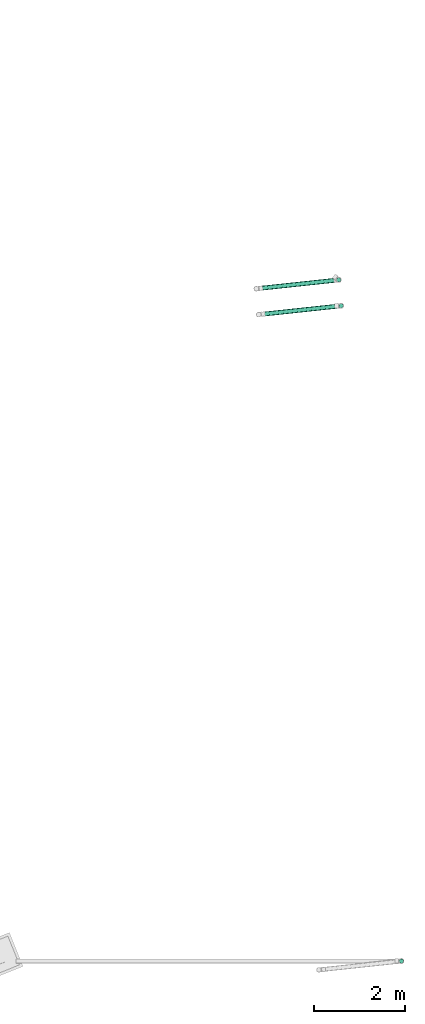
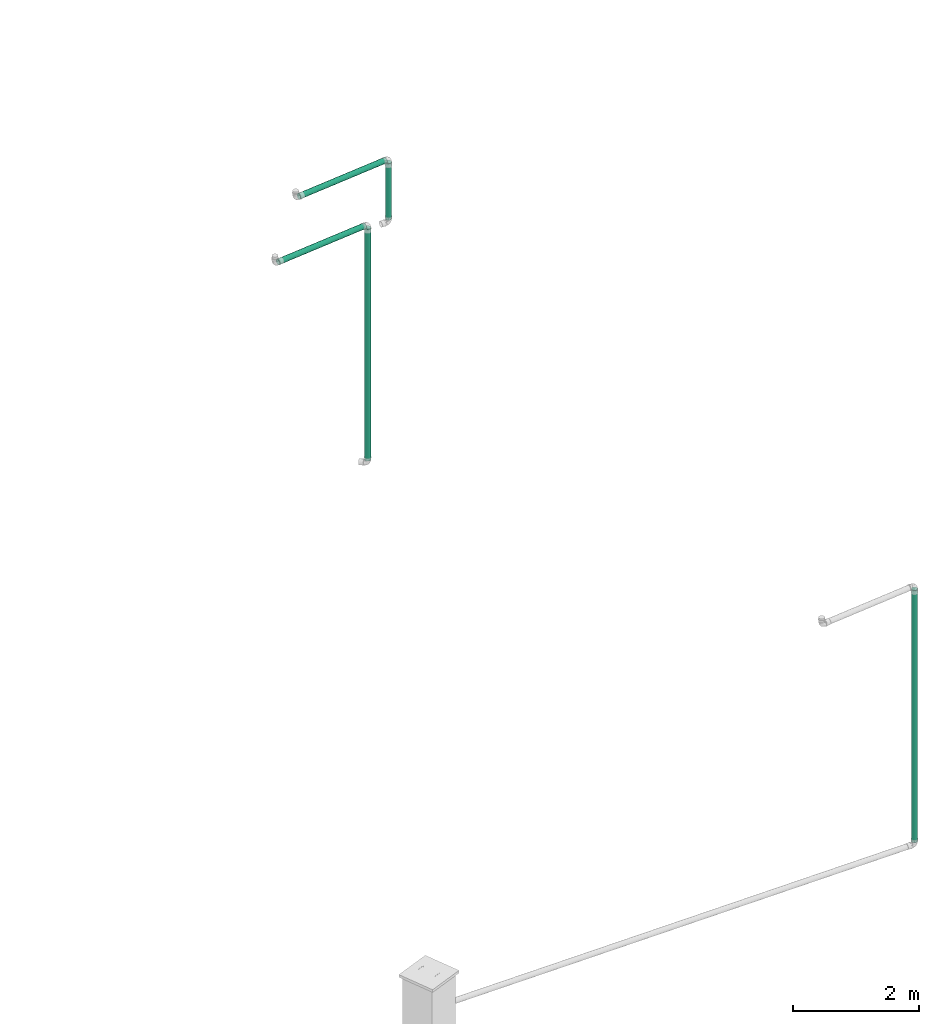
# One storey, part 5 of 97: 5 flow segments.
"""IFC2X3 building model written with IfcOpenShell, lengths in centimetres."""

from ifc_helpers import new_model, entity, si_unit, converted_unit, derived_unit, direction, frame, frame_2d, origin, origin_2d_with_axis, place, context, subcontext, project, spatial, circle, extrude, type_object, element, save


model = new_model("IFC2X3")

# Units and contexts
model_context = context("Model", 3, precision=0.001, world=origin(), true_north=direction((6.12303176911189e-17, 1.0)))
body_context = subcontext(model_context, "Body", "Model", "MODEL_VIEW")
ifc_project = project(units=[si_unit("LENGTHUNIT", "METRE", prefix="CENTI"), si_unit("AREAUNIT", "SQUARE_METRE"), si_unit("VOLUMEUNIT", "CUBIC_METRE"), converted_unit("PLANEANGLEUNIT", "DEGREE", entity("IfcRatioMeasure", 0.0174532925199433), si_unit("PLANEANGLEUNIT", "RADIAN"), dimensions=[0, 0, 0, 0, 0, 0, 0]), si_unit("MASSUNIT", "GRAM", prefix="KILO"), derived_unit("MASSDENSITYUNIT", [(si_unit("MASSUNIT", "GRAM", prefix="KILO"), 1), (si_unit("LENGTHUNIT", "METRE"), -3)]), derived_unit("MOMENTOFINERTIAUNIT", [(si_unit("LENGTHUNIT", "METRE"), 4)]), si_unit("TIMEUNIT", "SECOND"), si_unit("FREQUENCYUNIT", "HERTZ"), si_unit("THERMODYNAMICTEMPERATUREUNIT", "DEGREE_CELSIUS"), derived_unit("THERMALTRANSMITTANCEUNIT", [(si_unit("MASSUNIT", "GRAM", prefix="KILO"), 1), (si_unit("THERMODYNAMICTEMPERATUREUNIT", "KELVIN"), -1), (si_unit("TIMEUNIT", "SECOND"), -3)]), derived_unit("VOLUMETRICFLOWRATEUNIT", [(si_unit("LENGTHUNIT", "METRE"), 3), (si_unit("TIMEUNIT", "SECOND"), -1)]), si_unit("ELECTRICCURRENTUNIT", "AMPERE"), si_unit("ELECTRICVOLTAGEUNIT", "VOLT"), si_unit("POWERUNIT", "WATT"), si_unit("FORCEUNIT", "NEWTON", prefix="KILO"), si_unit("ILLUMINANCEUNIT", "LUX"), si_unit("LUMINOUSFLUXUNIT", "LUMEN"), si_unit("LUMINOUSINTENSITYUNIT", "CANDELA"), derived_unit("USERDEFINED", [(si_unit("MASSUNIT", "GRAM", prefix="KILO"), -1), (si_unit("LENGTHUNIT", "METRE"), -2), (si_unit("TIMEUNIT", "SECOND"), 3), (si_unit("LUMINOUSFLUXUNIT", "LUMEN"), 1)]), derived_unit("LINEARVELOCITYUNIT", [(si_unit("LENGTHUNIT", "METRE"), 1), (si_unit("TIMEUNIT", "SECOND"), -1)]), si_unit("PRESSUREUNIT", "PASCAL"), derived_unit("USERDEFINED", [(si_unit("LENGTHUNIT", "METRE"), -2), (si_unit("MASSUNIT", "GRAM", prefix="KILO"), 1), (si_unit("TIMEUNIT", "SECOND"), -2)]), derived_unit("LINEARFORCEUNIT", [(si_unit("MASSUNIT", "GRAM", prefix="KILO"), 1), (si_unit("LENGTHUNIT", "METRE"), 1), (si_unit("TIMEUNIT", "SECOND"), -2), (si_unit("LENGTHUNIT", "METRE"), -1)]), derived_unit("PLANARFORCEUNIT", [(si_unit("MASSUNIT", "GRAM", prefix="KILO"), 1), (si_unit("LENGTHUNIT", "METRE"), 1), (si_unit("TIMEUNIT", "SECOND"), -2), (si_unit("LENGTHUNIT", "METRE"), -2)])], contexts=[model_context])

# Site, building, storey
site_placement = place(None, origin())
site = spatial("IfcSite", under=ifc_project, at=site_placement, Name="Default", CompositionType="ELEMENT")
building_placement = place(site_placement, origin())
building = spatial("IfcBuilding", under=site, at=building_placement, Name="HIDROSSANITÁRIO", CompositionType="ELEMENT")
storey_placement = place(building_placement, frame((0.0, 0.0, -260.0)))
storey = spatial("IfcBuildingStorey", under=building, at=storey_placement, Name="TÉRREO-HID", CompositionType="ELEMENT", Elevation=-260.0)

# Flow segments
pipe_segment_type = type_object("IfcPipeSegmentType", Name="Tipos de tubos:Tubo - Esgoto - Série Normal", PredefinedType="NOTDEFINED")
flow_segment_1_placement = place(storey_placement, origin())
element("IfcFlowSegment", 1, at=flow_segment_1_placement, inside=storey, type_object=pipe_segment_type, Name="Tipos de tubos:Tubo - Esgoto - Série Normal", ObjectType="Tipos de tubos:Tubo - Esgoto - Série Normal", context=body_context, shape_type="SweptSolid", body=[
    extrude(circle(Radius=5.0, at=origin_2d_with_axis()), frame((3087.06789897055, -81.2994897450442, 125.8482599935), z_axis=(0.0, 0.0, 1.0), x_axis=(-1.0, 0.0, 0.0)), (0.0, 0.0, 1.0), 488.2517400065),
])
flow_segment_2_placement = place(storey_placement, origin())
element("IfcFlowSegment", 2, at=flow_segment_2_placement, inside=storey, type_object=pipe_segment_type, Name="Tipos de tubos:Tubo - Esgoto - Série Normal", ObjectType="Tipos de tubos:Tubo - Esgoto - Série Normal", context=body_context, shape_type="SweptSolid", body=[
    extrude(circle(Radius=5.0, at=frame_2d((-4.33146851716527e-13, -3.32746794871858e-23), x_axis=(1.0, 0.0))), frame((2954.84763948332, 1356.77084981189, 504.463452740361), z_axis=(3.61479696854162e-06, -2.12517554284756e-05, 1.0), x_axis=(-1.0, 0.0, 3.61479696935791e-06)), (0.0, 0.0, 1.0), 109.636547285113),
])
flow_segment_3_placement = place(storey_placement, origin())
element("IfcFlowSegment", 3, at=flow_segment_3_placement, inside=storey, type_object=pipe_segment_type, Name="Tipos de tubos:Tubo - Esgoto - Série Normal", ObjectType="Tipos de tubos:Tubo - Esgoto - Série Normal", context=body_context, shape_type="SweptSolid", body=[
    extrude(circle(Radius=5.0, at=origin_2d_with_axis()), frame((2779.74919915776, 1338.01688891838, 620.0), z_axis=(0.994305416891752, 0.106567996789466, 0.0), x_axis=(-0.106567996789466, 0.994305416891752, 0.0)), (0.0, 0.0, 1.0), 170.200045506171),
])
flow_segment_4_placement = place(storey_placement, origin())
element("IfcFlowSegment", 4, at=flow_segment_4_placement, inside=storey, type_object=pipe_segment_type, Name="Tipos de tubos:Tubo - Esgoto - Série Normal", ObjectType="Tipos de tubos:Tubo - Esgoto - Série Normal", context=body_context, shape_type="SweptSolid", body=[
    extrude(circle(Radius=5.0, at=origin_2d_with_axis()), frame((2949.64169136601, 1413.63693169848, 5.84867681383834), z_axis=(0.0, 0.0, 1.0), x_axis=(-1.0, 0.0, 0.0)), (0.0, 0.0, 1.0), 448.751323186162),
])
flow_segment_5_placement = place(storey_placement, origin())
element("IfcFlowSegment", 5, at=flow_segment_5_placement, inside=storey, type_object=pipe_segment_type, Name="Tipos de tubos:Tubo - Esgoto - Série Normal", ObjectType="Tipos de tubos:Tubo - Esgoto - Série Normal", context=body_context, shape_type="SweptSolid", body=[
    extrude(circle(Radius=5.0, at=origin_2d_with_axis()), frame((2774.54245206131, 1394.87008717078, 460.5), z_axis=(0.994305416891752, 0.106567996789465, 0.0), x_axis=(-0.106567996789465, 0.994305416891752, 0.0)), (0.0, 0.0, 1.0), 170.202067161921),
])

save(model, "model.ifc")
